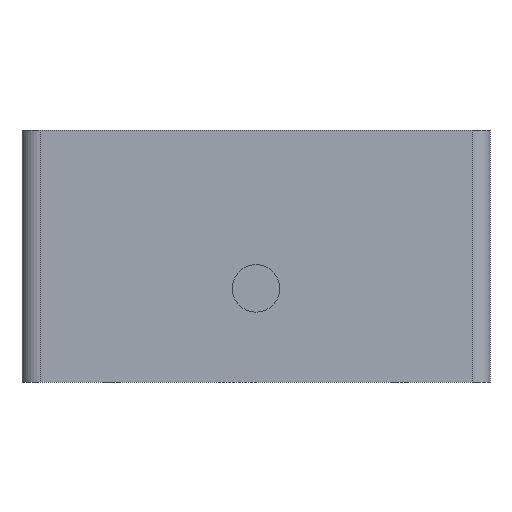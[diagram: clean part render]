
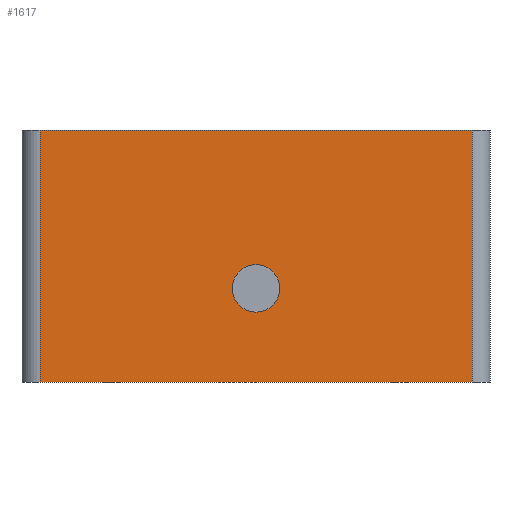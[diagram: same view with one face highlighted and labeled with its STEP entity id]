
A CAD part, front view. The second image highlights one B-rep face of the part: STEP entity #1617.
In plain terms, the highlighted planar face has unit normal (0, -1, 0).
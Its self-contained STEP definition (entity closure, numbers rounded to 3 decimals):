
#44 = PLANE('',#45);
#45 = AXIS2_PLACEMENT_3D('',#46,#47,#48);
#46 = CARTESIAN_POINT('',(0.,0.,70.));
#47 = DIRECTION('',(0.,0.,1.));
#48 = DIRECTION('',(1.,0.,0.));
#72 = CYLINDRICAL_SURFACE('',#73,5.);
#73 = AXIS2_PLACEMENT_3D('',#74,#75,#76);
#74 = CARTESIAN_POINT('',(5.,5.,0.));
#75 = DIRECTION('',(0.,0.,1.));
#76 = DIRECTION('',(-1.,-0.,0.));
#100 = PLANE('',#101);
#101 = AXIS2_PLACEMENT_3D('',#102,#103,#104);
#102 = CARTESIAN_POINT('',(0.,0.,0.));
#103 = DIRECTION('',(0.,0.,1.));
#104 = DIRECTION('',(1.,0.,0.));
#178 = VERTEX_POINT('',#179);
#179 = CARTESIAN_POINT('',(5.,0.,70.));
#201 = EDGE_CURVE('',#178,#202,#204,.T.);
#202 = VERTEX_POINT('',#203);
#203 = CARTESIAN_POINT('',(125.,0.,70.));
#204 = SURFACE_CURVE('',#205,(#209,#216),.PCURVE_S1.);
#205 = LINE('',#206,#207);
#206 = CARTESIAN_POINT('',(0.,0.,70.));
#207 = VECTOR('',#208,1.);
#208 = DIRECTION('',(1.,0.,0.));
#209 = PCURVE('',#44,#210);
#210 = DEFINITIONAL_REPRESENTATION('',(#211),#215);
#211 = LINE('',#212,#213);
#212 = CARTESIAN_POINT('',(0.,0.));
#213 = VECTOR('',#214,1.);
#214 = DIRECTION('',(1.,0.));
#215 = ( GEOMETRIC_REPRESENTATION_CONTEXT(2) 
PARAMETRIC_REPRESENTATION_CONTEXT() REPRESENTATION_CONTEXT('2D SPACE',''
  ) );
#216 = PCURVE('',#217,#222);
#217 = PLANE('',#218);
#218 = AXIS2_PLACEMENT_3D('',#219,#220,#221);
#219 = CARTESIAN_POINT('',(0.,0.,0.));
#220 = DIRECTION('',(0.,1.,0.));
#221 = DIRECTION('',(0.,0.,1.));
#222 = DEFINITIONAL_REPRESENTATION('',(#223),#227);
#223 = LINE('',#224,#225);
#224 = CARTESIAN_POINT('',(70.,0.));
#225 = VECTOR('',#226,1.);
#226 = DIRECTION('',(0.,1.));
#227 = ( GEOMETRIC_REPRESENTATION_CONTEXT(2) 
PARAMETRIC_REPRESENTATION_CONTEXT() REPRESENTATION_CONTEXT('2D SPACE',''
  ) );
#250 = CYLINDRICAL_SURFACE('',#251,5.);
#251 = AXIS2_PLACEMENT_3D('',#252,#253,#254);
#252 = CARTESIAN_POINT('',(125.,5.,0.));
#253 = DIRECTION('',(0.,0.,1.));
#254 = DIRECTION('',(1.,0.,-0.));
#1199 = VERTEX_POINT('',#1200);
#1200 = CARTESIAN_POINT('',(5.,0.,0.));
#1222 = EDGE_CURVE('',#1199,#178,#1223,.T.);
#1223 = SURFACE_CURVE('',#1224,(#1228,#1235),.PCURVE_S1.);
#1224 = LINE('',#1225,#1226);
#1225 = CARTESIAN_POINT('',(5.,0.,0.));
#1226 = VECTOR('',#1227,1.);
#1227 = DIRECTION('',(0.,0.,1.));
#1228 = PCURVE('',#72,#1229);
#1229 = DEFINITIONAL_REPRESENTATION('',(#1230),#1234);
#1230 = LINE('',#1231,#1232);
#1231 = CARTESIAN_POINT('',(1.571,0.));
#1232 = VECTOR('',#1233,1.);
#1233 = DIRECTION('',(0.,1.));
#1234 = ( GEOMETRIC_REPRESENTATION_CONTEXT(2) 
PARAMETRIC_REPRESENTATION_CONTEXT() REPRESENTATION_CONTEXT('2D SPACE',''
  ) );
#1235 = PCURVE('',#217,#1236);
#1236 = DEFINITIONAL_REPRESENTATION('',(#1237),#1241);
#1237 = LINE('',#1238,#1239);
#1238 = CARTESIAN_POINT('',(0.,5.));
#1239 = VECTOR('',#1240,1.);
#1240 = DIRECTION('',(1.,0.));
#1241 = ( GEOMETRIC_REPRESENTATION_CONTEXT(2) 
PARAMETRIC_REPRESENTATION_CONTEXT() REPRESENTATION_CONTEXT('2D SPACE',''
  ) );
#1304 = EDGE_CURVE('',#1199,#1305,#1307,.T.);
#1305 = VERTEX_POINT('',#1306);
#1306 = CARTESIAN_POINT('',(125.,0.,0.));
#1307 = SURFACE_CURVE('',#1308,(#1312,#1319),.PCURVE_S1.);
#1308 = LINE('',#1309,#1310);
#1309 = CARTESIAN_POINT('',(0.,0.,0.));
#1310 = VECTOR('',#1311,1.);
#1311 = DIRECTION('',(1.,0.,0.));
#1312 = PCURVE('',#100,#1313);
#1313 = DEFINITIONAL_REPRESENTATION('',(#1314),#1318);
#1314 = LINE('',#1315,#1316);
#1315 = CARTESIAN_POINT('',(0.,0.));
#1316 = VECTOR('',#1317,1.);
#1317 = DIRECTION('',(1.,0.));
#1318 = ( GEOMETRIC_REPRESENTATION_CONTEXT(2) 
PARAMETRIC_REPRESENTATION_CONTEXT() REPRESENTATION_CONTEXT('2D SPACE',''
  ) );
#1319 = PCURVE('',#217,#1320);
#1320 = DEFINITIONAL_REPRESENTATION('',(#1321),#1325);
#1321 = LINE('',#1322,#1323);
#1322 = CARTESIAN_POINT('',(0.,0.));
#1323 = VECTOR('',#1324,1.);
#1324 = DIRECTION('',(0.,1.));
#1325 = ( GEOMETRIC_REPRESENTATION_CONTEXT(2) 
PARAMETRIC_REPRESENTATION_CONTEXT() REPRESENTATION_CONTEXT('2D SPACE',''
  ) );
#1617 = ADVANCED_FACE('',(#1618,#1644),#217,.F.);
#1618 = FACE_BOUND('',#1619,.F.);
#1619 = EDGE_LOOP('',(#1620,#1621,#1622,#1623));
#1620 = ORIENTED_EDGE('',*,*,#1304,.F.);
#1621 = ORIENTED_EDGE('',*,*,#1222,.T.);
#1622 = ORIENTED_EDGE('',*,*,#201,.T.);
#1623 = ORIENTED_EDGE('',*,*,#1624,.F.);
#1624 = EDGE_CURVE('',#1305,#202,#1625,.T.);
#1625 = SURFACE_CURVE('',#1626,(#1630,#1637),.PCURVE_S1.);
#1626 = LINE('',#1627,#1628);
#1627 = CARTESIAN_POINT('',(125.,0.,0.));
#1628 = VECTOR('',#1629,1.);
#1629 = DIRECTION('',(0.,0.,1.));
#1630 = PCURVE('',#217,#1631);
#1631 = DEFINITIONAL_REPRESENTATION('',(#1632),#1636);
#1632 = LINE('',#1633,#1634);
#1633 = CARTESIAN_POINT('',(0.,125.));
#1634 = VECTOR('',#1635,1.);
#1635 = DIRECTION('',(1.,0.));
#1636 = ( GEOMETRIC_REPRESENTATION_CONTEXT(2) 
PARAMETRIC_REPRESENTATION_CONTEXT() REPRESENTATION_CONTEXT('2D SPACE',''
  ) );
#1637 = PCURVE('',#250,#1638);
#1638 = DEFINITIONAL_REPRESENTATION('',(#1639),#1643);
#1639 = LINE('',#1640,#1641);
#1640 = CARTESIAN_POINT('',(-1.571,0.));
#1641 = VECTOR('',#1642,1.);
#1642 = DIRECTION('',(-0.,1.));
#1643 = ( GEOMETRIC_REPRESENTATION_CONTEXT(2) 
PARAMETRIC_REPRESENTATION_CONTEXT() REPRESENTATION_CONTEXT('2D SPACE',''
  ) );
#1644 = FACE_BOUND('',#1645,.F.);
#1645 = EDGE_LOOP('',(#1646));
#1646 = ORIENTED_EDGE('',*,*,#1647,.T.);
#1647 = EDGE_CURVE('',#1648,#1648,#1650,.T.);
#1648 = VERTEX_POINT('',#1649);
#1649 = CARTESIAN_POINT('',(71.6,0.,26.));
#1650 = SURFACE_CURVE('',#1651,(#1656,#1667),.PCURVE_S1.);
#1651 = CIRCLE('',#1652,6.6);
#1652 = AXIS2_PLACEMENT_3D('',#1653,#1654,#1655);
#1653 = CARTESIAN_POINT('',(65.,0.,26.));
#1654 = DIRECTION('',(0.,-1.,0.));
#1655 = DIRECTION('',(1.,0.,0.));
#1656 = PCURVE('',#217,#1657);
#1657 = DEFINITIONAL_REPRESENTATION('',(#1658),#1666);
#1658 = ( BOUNDED_CURVE() B_SPLINE_CURVE(2,(#1659,#1660,#1661,#1662,
#1663,#1664,#1665),.UNSPECIFIED.,.T.,.F.) B_SPLINE_CURVE_WITH_KNOTS((1,2
    ,2,2,2,1),(-2.094,0.,2.094,4.189,
6.283,8.378),.UNSPECIFIED.) CURVE() 
GEOMETRIC_REPRESENTATION_ITEM() RATIONAL_B_SPLINE_CURVE((1.,0.5,1.,0.5,
1.,0.5,1.)) REPRESENTATION_ITEM('') );
#1659 = CARTESIAN_POINT('',(26.,71.6));
#1660 = CARTESIAN_POINT('',(37.432,71.6));
#1661 = CARTESIAN_POINT('',(31.716,61.7));
#1662 = CARTESIAN_POINT('',(26.,51.8));
#1663 = CARTESIAN_POINT('',(20.284,61.7));
#1664 = CARTESIAN_POINT('',(14.568,71.6));
#1665 = CARTESIAN_POINT('',(26.,71.6));
#1666 = ( GEOMETRIC_REPRESENTATION_CONTEXT(2) 
PARAMETRIC_REPRESENTATION_CONTEXT() REPRESENTATION_CONTEXT('2D SPACE',''
  ) );
#1667 = PCURVE('',#1668,#1673);
#1668 = CYLINDRICAL_SURFACE('',#1669,6.6);
#1669 = AXIS2_PLACEMENT_3D('',#1670,#1671,#1672);
#1670 = CARTESIAN_POINT('',(65.,0.,26.));
#1671 = DIRECTION('',(0.,-1.,0.));
#1672 = DIRECTION('',(1.,0.,0.));
#1673 = DEFINITIONAL_REPRESENTATION('',(#1674),#1678);
#1674 = LINE('',#1675,#1676);
#1675 = CARTESIAN_POINT('',(0.,0.));
#1676 = VECTOR('',#1677,1.);
#1677 = DIRECTION('',(1.,0.));
#1678 = ( GEOMETRIC_REPRESENTATION_CONTEXT(2) 
PARAMETRIC_REPRESENTATION_CONTEXT() REPRESENTATION_CONTEXT('2D SPACE',''
  ) );
